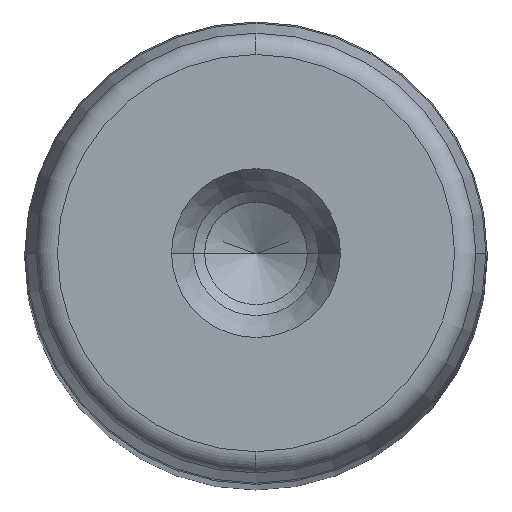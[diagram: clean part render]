
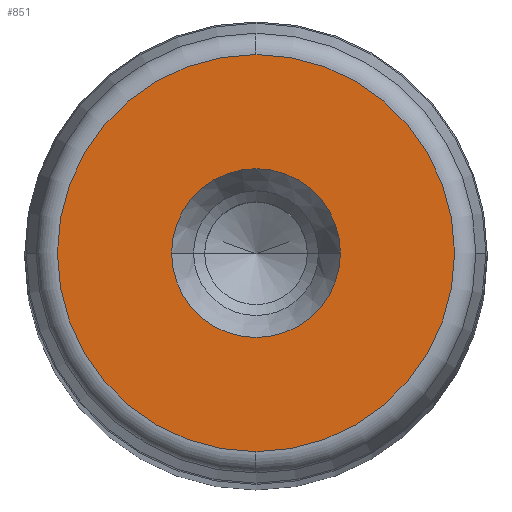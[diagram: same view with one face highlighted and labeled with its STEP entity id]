
A CAD part, top view. The second image highlights one B-rep face of the part: STEP entity #851.
In plain terms, the highlighted planar face has unit normal (0, 0, 1) as drawn and (0, 1, 0) by its records, which use the part's own axes.
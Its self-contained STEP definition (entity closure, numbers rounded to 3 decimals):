
#281=CARTESIAN_POINT('',(11.5,450.0,0.0));
#282=VERTEX_POINT('',#281);
#289=CARTESIAN_POINT('',(-11.5,450.0,0.));
#290=VERTEX_POINT('',#289);
#291=CARTESIAN_POINT('',(0.0,450.0,0.0));
#292=DIRECTION('',(0.0,1.0,0.0));
#293=DIRECTION('',(1.0,0.0,0.0));
#294=AXIS2_PLACEMENT_3D('',#291,#292,#293);
#295=CIRCLE('',#294,11.5);
#296=EDGE_CURVE('',#282,#290,#295,.T.);
#313=CARTESIAN_POINT('',(0.0,450.0,27.054));
#314=VERTEX_POINT('',#313);
#324=CARTESIAN_POINT('',(0.,450.0,-27.054));
#325=VERTEX_POINT('',#324);
#326=CARTESIAN_POINT('',(0.0,450.0,0.0));
#327=DIRECTION('',(0.0,1.0,0.0));
#328=DIRECTION('',(1.0,0.0,0.0));
#329=AXIS2_PLACEMENT_3D('',#326,#327,#328);
#330=CIRCLE('',#329,27.054);
#331=EDGE_CURVE('',#325,#314,#330,.T.);
#812=CARTESIAN_POINT('',(27.054,450.0,0.0));
#813=VERTEX_POINT('',#812);
#814=CARTESIAN_POINT('',(0.0,450.0,0.0));
#815=DIRECTION('',(0.0,1.0,0.0));
#816=DIRECTION('',(1.0,0.0,0.0));
#817=AXIS2_PLACEMENT_3D('',#814,#815,#816);
#818=CIRCLE('',#817,27.054);
#819=EDGE_CURVE('',#813,#325,#818,.T.);
#821=CARTESIAN_POINT('',(0.0,450.0,0.0));
#822=DIRECTION('',(0.0,1.0,0.0));
#823=DIRECTION('',(1.0,0.0,0.0));
#824=AXIS2_PLACEMENT_3D('',#821,#822,#823);
#825=CIRCLE('',#824,27.054);
#826=EDGE_CURVE('',#314,#813,#825,.T.);
#831=CARTESIAN_POINT('',(-29.76,450.0,-29.76));
#832=DIRECTION('',(0.0,1.0,0.0));
#833=DIRECTION('',(0.0,0.0,1.0));
#834=AXIS2_PLACEMENT_3D('',#831,#832,#833);
#835=PLANE('',#834);
#836=ORIENTED_EDGE('',*,*,#819,.T.);
#837=ORIENTED_EDGE('',*,*,#331,.T.);
#838=ORIENTED_EDGE('',*,*,#826,.T.);
#839=EDGE_LOOP('',(#836,#837,#838));
#840=FACE_OUTER_BOUND('',#839,.T.);
#841=ORIENTED_EDGE('',*,*,#296,.F.);
#842=CARTESIAN_POINT('',(0.0,450.0,0.0));
#843=DIRECTION('',(0.0,1.0,0.0));
#844=DIRECTION('',(1.0,0.0,0.0));
#845=AXIS2_PLACEMENT_3D('',#842,#843,#844);
#846=CIRCLE('',#845,11.5);
#847=EDGE_CURVE('',#290,#282,#846,.T.);
#848=ORIENTED_EDGE('',*,*,#847,.F.);
#849=EDGE_LOOP('',(#841,#848));
#850=FACE_BOUND('',#849,.T.);
#851=ADVANCED_FACE('',(#840,#850),#835,.T.);
